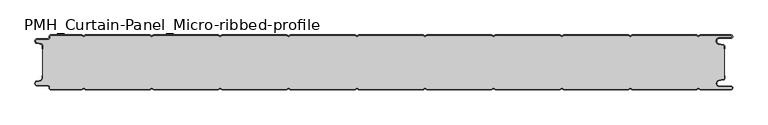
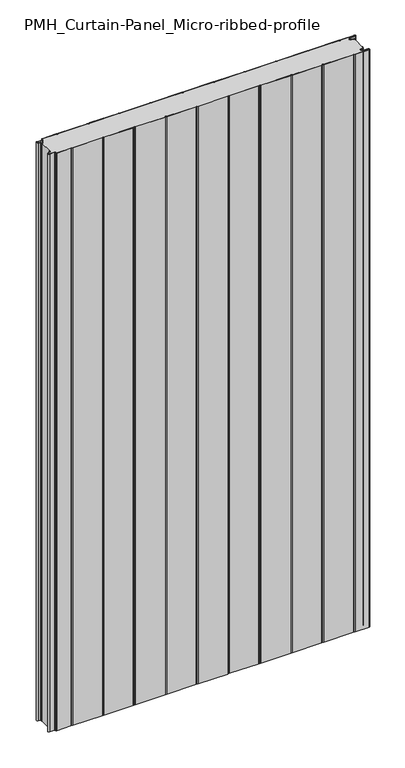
"""IFC4 building model written with IfcOpenShell, lengths in millimetres: plate geometry, PMH_Curtain-Panel_Micro-ribbed-profile : ACH_PMH_Stone-wool-Panel_80M."""

import ifcopenshell
import ifcopenshell.guid

model = None  # the IFC model being written
_history = None  # IfcOwnerHistory: only IFC2X3 demands one
_inside = {}  # id of a spatial element -> (the spatial element, [elements in it])
_under = {}  # id of a project, library or spatial element -> (it, [spatial elements below it])
_declared = {}  # id of a project -> (the project, [libraries it declares])
_typed = {}  # id of a type object -> (the type object, [elements of that type])
_made_of = {}  # id of a material, layer set ... -> (it, [elements and type objects made of it])


def new_model(schema):
    """Start an empty IFC model of exactly this schema.

    Asked for "IFC4X3", IfcOpenShell would pick the latest addendum, in which some entities
    have other attributes; the version numbers below select the first issue.
    IFC2X3 requires an IfcOwnerHistory on every rooted entity: one is made here for all.
    """
    global model, _history
    if schema == "IFC4X3":
        model = ifcopenshell.file(schema_version=(4, 3, 0, 0))
    else:
        model = ifcopenshell.file(schema=schema)
    _inside.clear()
    _under.clear()
    _declared.clear()
    _typed.clear()
    _made_of.clear()
    _history = None
    if model.schema == "IFC2X3":
        org = make("IfcOrganization", Name="unknown")
        user = make(
            "IfcPersonAndOrganization",
            ThePerson=make("IfcPerson", FamilyName="unknown"),
            TheOrganization=org,
        )
        app = make(
            "IfcApplication",
            ApplicationDeveloper=org,
            Version="unknown",
            ApplicationFullName="unknown",
            ApplicationIdentifier="unknown",
        )
        _history = make(
            "IfcOwnerHistory",
            OwningUser=user,
            OwningApplication=app,
            ChangeAction="ADDED",
            CreationDate=0,
        )
    return model


def make(cls, **values):
    """One entity of the class cls with the attributes given. An attribute that is None is left unset."""
    return model.create_entity(
        cls, **{name: value for name, value in values.items() if value is not None}
    )


def rooted(cls, **values):
    """An entity with a GlobalId (a new one), such as an element, a storey or a relation."""
    return make(cls, GlobalId=ifcopenshell.guid.new(), OwnerHistory=_history, **values)


def si_unit(unit_type, name, prefix=None):
    """IfcSIUnit, for example si_unit("LENGTHUNIT", "METRE", prefix="MILLI")."""
    return make("IfcSIUnit", UnitType=unit_type, Prefix=prefix, Name=name)


def assignment(units):
    """IfcUnitAssignment: the units of a project."""
    return None if units is None else make("IfcUnitAssignment", Units=units)


def point(xyz):
    """IfcCartesianPoint."""
    return None if xyz is None else make("IfcCartesianPoint", Coordinates=xyz)


def direction(xyz):
    """IfcDirection."""
    return None if xyz is None else make("IfcDirection", DirectionRatios=xyz)


def frame(location, z_axis=None, x_axis=None):
    """IfcAxis2Placement3D, a coordinate frame: its origin and axes. An axis left out is left unset."""
    return make(
        "IfcAxis2Placement3D",
        Location=point(location),
        Axis=direction(z_axis),
        RefDirection=direction(x_axis),
    )


def frame_2d(location, x_axis=None):
    """IfcAxis2Placement2D, a coordinate frame in the plane: its origin and x axis."""
    return make(
        "IfcAxis2Placement2D", Location=point(location), RefDirection=direction(x_axis)
    )


def origin():
    """The frame at (0, 0, 0) with its axes left unset."""
    return frame((0.0, 0.0, 0.0))


def origin_with_axes():
    """The frame at (0, 0, 0) with the z axis (0, 0, 1) and the x axis (1, 0, 0) written out."""
    return frame((0.0, 0.0, 0.0), z_axis=(0.0, 0.0, 1.0), x_axis=(1.0, 0.0, 0.0))


def place(relative_to, where):
    """IfcLocalPlacement: puts the frame where relative to a parent placement (None: the world)."""
    return make(
        "IfcLocalPlacement", PlacementRelTo=relative_to, RelativePlacement=where
    )


def context(
    kind, dimensions, precision=None, world=None, true_north=None, identifier=None
):
    """IfcGeometricRepresentationContext, for example the 3D "Model" context."""
    return make(
        "IfcGeometricRepresentationContext",
        ContextIdentifier=identifier,
        ContextType=kind,
        CoordinateSpaceDimension=dimensions,
        Precision=precision,
        WorldCoordinateSystem=world,
        TrueNorth=true_north,
    )


def project(units=None, contexts=None):
    """IfcProject with its units and contexts."""
    return rooted(
        "IfcProject",
        Name="project",
        RepresentationContexts=contexts,
        UnitsInContext=assignment(units),
    )


def spatial(cls, under=None, at=None, **own):
    """A site, building, storey or space (cls), placed at a placement, below another one or the project."""
    s = rooted(cls, ObjectPlacement=at, **own)
    if under is not None:
        _under.setdefault(under.id(), (under, []))[1].append(s)
    return s


def polyline(points):
    """IfcPolyline through the points."""
    return make("IfcPolyline", Points=[point(p) for p in points])


def circle_curve(where, radius):
    """IfcCircle in the frame where."""
    return make("IfcCircle", Position=where, Radius=radius)


def trimmed(basis, trim1, trim2, sense, master):
    """IfcTrimmedCurve: the piece of a basis curve between two trims."""
    return make(
        "IfcTrimmedCurve",
        BasisCurve=basis,
        Trim1=trim1,
        Trim2=trim2,
        SenseAgreement=sense,
        MasterRepresentation=master,
    )


def segment(curve, same_sense, transition):
    """IfcCompositeCurveSegment."""
    return make(
        "IfcCompositeCurveSegment",
        Transition=transition,
        SameSense=same_sense,
        ParentCurve=curve,
    )


def composite_curve(segments, self_intersect=None):
    """IfcCompositeCurve: segments joined end to end."""
    return make("IfcCompositeCurve", Segments=segments, SelfIntersect=self_intersect)


def outline(outer, holes=None, kind="AREA"):
    """IfcArbitraryClosedProfileDef: a profile drawn as a closed curve; with holes, ...WithVoids."""
    if holes is None:
        return make("IfcArbitraryClosedProfileDef", ProfileType=kind, OuterCurve=outer)
    return make(
        "IfcArbitraryProfileDefWithVoids",
        ProfileType=kind,
        OuterCurve=outer,
        InnerCurves=holes,
    )


def extrude(swept, where, along, depth):
    """IfcExtrudedAreaSolid: the profile swept, set in the frame where, extruded along a direction by depth."""
    return make(
        "IfcExtrudedAreaSolid",
        SweptArea=swept,
        Position=where,
        ExtrudedDirection=direction(along),
        Depth=depth,
    )


def shape(context_of_items, identifier, shape_type, items):
    """IfcShapeRepresentation: the items that make up one representation, for example the "Body"."""
    return make(
        "IfcShapeRepresentation",
        ContextOfItems=context_of_items,
        RepresentationIdentifier=identifier,
        RepresentationType=shape_type,
        Items=items,
    )


def source(mapping_origin, context_of_items, identifier, shape_type, items):
    """IfcRepresentationMap: a shape defined once, which mapped items show again and again."""
    return make(
        "IfcRepresentationMap",
        MappingOrigin=mapping_origin,
        MappedRepresentation=shape(context_of_items, identifier, shape_type, items),
    )


def transform(
    local_origin,
    x_axis=None,
    y_axis=None,
    z_axis=None,
    scale=None,
    scale2=None,
    scale3=None,
    uniform=True,
):
    """IfcCartesianTransformationOperator3D, or its non-uniform kind. x_axis, y_axis, z_axis: its Axis1, 2, 3."""
    if uniform:
        return make(
            "IfcCartesianTransformationOperator3D",
            Axis1=direction(x_axis),
            Axis2=direction(y_axis),
            LocalOrigin=point(local_origin),
            Scale=scale,
            Axis3=direction(z_axis),
        )
    return make(
        "IfcCartesianTransformationOperator3DnonUniform",
        Axis1=direction(x_axis),
        Axis2=direction(y_axis),
        LocalOrigin=point(local_origin),
        Scale=scale,
        Axis3=direction(z_axis),
        Scale2=scale2,
        Scale3=scale3,
    )


def mapped(mapping_source, mapping_target):
    """IfcMappedItem: shows the shape of a source again, moved by a transform."""
    return make(
        "IfcMappedItem", MappingSource=mapping_source, MappingTarget=mapping_target
    )


def made_of(thing, what):
    """Note that an element or type object is made of a material, layer set ...; save() writes the relation."""
    if what is not None:
        _made_of.setdefault(what.id(), (what, []))[1].append(thing)
    return thing


def element(
    cls,
    number,
    at=None,
    inside=None,
    cuts=None,
    type_object=None,
    material=None,
    context=None,
    identifier="Body",
    shape_type=None,
    held_by="IfcProductDefinitionShape",
    body=None,
    shapes=None,
    **own,
):
    """One element of the class cls, such as IfcWall. Its Tag is "e" and its number.

    at: its placement. inside: the storey or other place that contains it. cuts: it is an
    opening in that element (IfcRelVoidsElement). A single representation is given by context,
    identifier, shape_type and body (its items); several are given by shapes. held_by: the class
    of the entity that holds the representations. save() writes the other relations.
    """
    e = rooted(cls, Tag="e%d" % number, ObjectPlacement=at, **own)
    if body is not None:
        shapes = [shape(context, identifier, shape_type, body)]
    if shapes is not None:
        e.Representation = make(held_by, Representations=shapes)
    if inside is not None:
        _inside.setdefault(inside.id(), (inside, []))[1].append(e)
    if cuts is not None:
        rooted(
            "IfcRelVoidsElement", RelatingBuildingElement=cuts, RelatedOpeningElement=e
        )
    if type_object is not None:
        _typed.setdefault(type_object.id(), (type_object, []))[1].append(e)
    return made_of(e, material)


def aggregate(whole, parts):
    """IfcRelAggregates: a whole, such as a stair, and the parts it consists of."""
    return rooted("IfcRelAggregates", RelatingObject=whole, RelatedObjects=parts)


def save(model, path):
    """Write the relations noted so far, then the file.

    IfcRelAggregates (storeys below a building ...), IfcRelContainedInSpatialStructure (elements
    in a storey), IfcRelDefinesByType, IfcRelAssociatesMaterial and IfcRelDeclares: one each for
    every whole, place, type object, material and project.
    """
    for whole, parts in _under.values():
        aggregate(whole, parts)
    for where, things in _inside.values():
        rooted(
            "IfcRelContainedInSpatialStructure",
            RelatedElements=things,
            RelatingStructure=where,
        )
    for kind, things in _typed.values():
        rooted("IfcRelDefinesByType", RelatedObjects=things, RelatingType=kind)
    for what, things in _made_of.values():
        rooted("IfcRelAssociatesMaterial", RelatedObjects=things, RelatingMaterial=what)
    for by, libraries in _declared.values():
        rooted("IfcRelDeclares", RelatingContext=by, RelatedDefinitions=libraries)
    model.write(path)


def pmh_curtain_panel_micro_ribbed_profile_33a01f13(model_context):
    return source(origin(), model_context, "Body", "SweptSolid", [
        extrude(outline(composite_curve([segment(trimmed(circle_curve(frame_2d((-502.0, -15.878557)), 2.0), [point((-500.0, -15.878557))], [point((-501.5500978, -13.9298169))], True, "CARTESIAN"), True, "CONTINUOUS"), segment(polyline([(-501.5500978, -13.9298169), (-507.7098239, -12.507732)]), True, "CONTINUOUS"), segment(trimmed(circle_curve(frame_2d((-506.9, -9.0)), 3.6), [point((-507.7098239, -12.507732))], [point((-506.9, -5.4))], False, "CARTESIAN"), True, "CONTINUOUS"), segment(polyline([(-506.9, -5.4), (-491.4, -5.4)]), True, "CONTINUOUS"), segment(trimmed(circle_curve(frame_2d((-491.4, -3.4)), 2.0), [point((-491.4, -5.4))], [point((-489.4, -3.4))], True, "CARTESIAN"), True, "CONTINUOUS"), segment(polyline([(-489.4, -3.4), (-489.4, -2.0)]), True, "CONTINUOUS"), segment(trimmed(circle_curve(frame_2d((-487.4, -2.0)), 2.0), [point((-489.4, -2.0))], [point((-487.4, 0.0))], False, "CARTESIAN"), True, "CONTINUOUS"), segment(polyline([(-487.4, 0.0), (-442.0999995, 0.0), (-439.4, -1.5588455), (-436.7000005, 0.0), (-342.0999995, 0.0), (-339.4, -1.5588455), (-336.7000005, 0.0), (-242.0999995, 0.0), (-239.4, -1.5588455), (-236.7000005, 0.0), (-142.0999995, 0.0), (-139.4, -1.5588455), (-136.7000005, 0.0), (-42.0999995, 0.0), (-39.4, -1.5588455), (-36.7000005, 0.0), (57.9000005, 0.0), (60.6, -1.5588455), (63.2999995, 0.0), (157.9000005, 0.0), (160.6, -1.5588455), (163.2999995, 0.0), (257.9000005, 0.0), (260.6, -1.5588455), (263.2999995, 0.0), (357.9000005, 0.0), (360.6, -1.5588455), (363.2999995, 0.0), (457.9000005, 0.0), (460.6, -1.5588455), (463.2999995, 0.0), (508.1, 0.0)]), True, "CONTINUOUS"), segment(trimmed(circle_curve(frame_2d((508.1, -2.5)), 2.5), [point((508.1, 0.0))], [point((508.1, -5.0))], False, "CARTESIAN"), True, "CONTINUOUS"), segment(polyline([(508.1, -5.0), (491.1, -5.0)]), True, "CONTINUOUS"), segment(trimmed(circle_curve(frame_2d((491.1, -9.0)), 4.0), [point((491.1, -5.0))], [point((490.405407, -12.939231))], True, "CARTESIAN"), True, "CONTINUOUS"), segment(polyline([(490.405407, -12.939231), (496.8514855, -14.0758491)]), True, "CONTINUOUS"), segment(trimmed(circle_curve(frame_2d((496.4, -16.6363492)), 2.6), [point((496.8514855, -14.0758491))], [point((499.0, -16.6363492))], False, "CARTESIAN"), True, "CONTINUOUS"), segment(polyline([(499.0, -16.6363492), (499.0, -20.0), (498.2, -20.0), (498.2, -16.6363492)]), True, "CONTINUOUS"), segment(trimmed(circle_curve(frame_2d((496.4, -16.6363492)), 1.8), [point((498.2, -16.6363492))], [point((496.7125669, -14.8636953))], True, "CARTESIAN"), True, "CONTINUOUS"), segment(polyline([(496.7125669, -14.8636953), (490.2664884, -13.7270772)]), True, "CONTINUOUS"), segment(trimmed(circle_curve(frame_2d((491.1, -9.0)), 4.8), [point((490.2664884, -13.7270772))], [point((491.1, -4.2))], False, "CARTESIAN"), True, "CONTINUOUS"), segment(polyline([(491.1, -4.2), (508.1, -4.2)]), True, "CONTINUOUS"), segment(trimmed(circle_curve(frame_2d((508.1, -2.5)), 1.7), [point((508.1, -4.2))], [point((508.1, -0.8))], True, "CARTESIAN"), True, "CONTINUOUS"), segment(polyline([(508.1, -0.8), (463.5143588, -0.8), (460.6, -2.482606), (457.6856412, -0.8), (363.5143588, -0.8), (360.6, -2.482606), (357.6856412, -0.8), (263.5143588, -0.8), (260.6, -2.482606), (257.6856412, -0.8), (163.5143588, -0.8), (160.6, -2.482606), (157.6856412, -0.8), (63.5143588, -0.8), (60.6, -2.482606), (57.6856412, -0.8), (-36.4856412, -0.8), (-39.4, -2.482606), (-42.3143588, -0.8), (-136.4856412, -0.8), (-139.4, -2.482606), (-142.3143588, -0.8), (-236.4856412, -0.8), (-239.4, -2.482606), (-242.3143588, -0.8), (-336.4856412, -0.8), (-339.4, -2.482606), (-342.3143588, -0.8), (-436.4856412, -0.8), (-439.4, -2.482606), (-442.3143588, -0.8), (-487.4, -0.8)]), True, "CONTINUOUS"), segment(trimmed(circle_curve(frame_2d((-487.4, -2.0)), 1.2), [point((-487.4, -0.8))], [point((-488.6, -2.0))], True, "CARTESIAN"), True, "CONTINUOUS"), segment(polyline([(-488.6, -2.0), (-488.6, -3.4)]), True, "CONTINUOUS"), segment(trimmed(circle_curve(frame_2d((-491.4, -3.4)), 2.8), [point((-488.6, -3.4))], [point((-491.4, -6.2))], False, "CARTESIAN"), True, "CONTINUOUS"), segment(polyline([(-491.4, -6.2), (-506.9, -6.2)]), True, "CONTINUOUS"), segment(trimmed(circle_curve(frame_2d((-506.9, -9.0)), 2.8), [point((-506.9, -6.2))], [point((-507.529863, -11.7282362))], True, "CARTESIAN"), True, "CONTINUOUS"), segment(polyline([(-507.529863, -11.7282362), (-501.370137, -13.150321)]), True, "CONTINUOUS"), segment(trimmed(circle_curve(frame_2d((-502.0, -15.878557)), 2.8), [point((-501.370137, -13.150321))], [point((-499.2, -15.878557))], False, "CARTESIAN"), True, "CONTINUOUS"), segment(polyline([(-499.2, -15.878557), (-499.2, -20.0), (-500.0, -20.0), (-500.0, -15.878557)]), True, "CONTINUOUS")], self_intersect=False)), origin_with_axes(), (0.0, 0.0, 1.0), 1945.7507136),
        extrude(outline(composite_curve([segment(polyline([(-499.2, -64.1214426), (-499.2, -15.8785573)]), True, "CONTINUOUS"), segment(trimmed(circle_curve(frame_2d((-502.0, -15.8785573)), 2.8), [point((-499.2, -15.8785573))], [point((-501.370137, -13.1503212))], True, "CARTESIAN"), True, "CONTINUOUS"), segment(polyline([(-501.370137, -13.1503212), (-507.5298631, -11.7282362)]), True, "CONTINUOUS"), segment(trimmed(circle_curve(frame_2d((-506.9, -9.0)), 2.8), [point((-507.5298631, -11.7282362))], [point((-506.9, -6.2))], False, "CARTESIAN"), True, "CONTINUOUS"), segment(polyline([(-506.9, -6.2), (-491.4000001, -6.2)]), True, "CONTINUOUS"), segment(trimmed(circle_curve(frame_2d((-491.4000001, -3.4)), 2.8), [point((-491.4000001, -6.2))], [point((-488.6000001, -3.4))], True, "CARTESIAN"), True, "CONTINUOUS"), segment(polyline([(-488.6000001, -3.4), (-488.6000001, -2.0)]), True, "CONTINUOUS"), segment(trimmed(circle_curve(frame_2d((-487.4000001, -2.0)), 1.2), [point((-488.6000001, -2.0))], [point((-487.4000001, -0.8))], False, "CARTESIAN"), True, "CONTINUOUS"), segment(polyline([(-487.4000001, -0.8), (-442.3143589, -0.8), (-439.4000001, -2.482606), (-436.4856412, -0.8), (-342.3143589, -0.8), (-339.4000001, -2.482606), (-336.4856412, -0.8), (-242.3143589, -0.8), (-239.4000001, -2.482606), (-236.4856412, -0.8), (-142.3143589, -0.8), (-139.4000001, -2.482606), (-136.4856412, -0.8), (-42.3143589, -0.8), (-39.4000001, -2.482606), (-36.4856412, -0.8), (57.6856411, -0.8), (60.5999999, -2.482606), (63.5143588, -0.8), (157.6856411, -0.8), (160.5999999, -2.482606), (163.5143588, -0.8), (257.6856411, -0.8), (260.5999999, -2.482606), (263.5143588, -0.8), (357.6856411, -0.8), (360.5999999, -2.482606), (363.5143588, -0.8), (457.6856411, -0.8), (460.5999999, -2.482606), (463.5143588, -0.8), (508.0999999, -0.8)]), True, "CONTINUOUS"), segment(trimmed(circle_curve(frame_2d((508.0999999, -2.5)), 1.7), [point((508.0999999, -0.8))], [point((508.0999999, -4.2))], False, "CARTESIAN"), True, "CONTINUOUS"), segment(polyline([(508.0999999, -4.2), (491.0999999, -4.2)]), True, "CONTINUOUS"), segment(trimmed(circle_curve(frame_2d((491.0999999, -9.0)), 4.8), [point((491.0999999, -4.2))], [point((490.2664883, -13.7270771))], True, "CARTESIAN"), True, "CONTINUOUS"), segment(polyline([(490.2664883, -13.7270771), (496.7125668, -14.8636953)]), True, "CONTINUOUS"), segment(trimmed(circle_curve(frame_2d((496.3999999, -16.6363492)), 1.8), [point((496.7125668, -14.8636953))], [point((498.1999999, -16.6363492))], False, "CARTESIAN"), True, "CONTINUOUS"), segment(polyline([(498.1999999, -16.6363492), (498.1999999, -63.3636508)]), True, "CONTINUOUS"), segment(trimmed(circle_curve(frame_2d((496.3999999, -63.3636508)), 1.8), [point((498.1999999, -63.3636508))], [point((496.7125668, -65.1363047))], False, "CARTESIAN"), True, "CONTINUOUS"), segment(polyline([(496.7125668, -65.1363047), (490.2664883, -66.2729229)]), True, "CONTINUOUS"), segment(trimmed(circle_curve(frame_2d((491.0999999, -71.0)), 4.8), [point((490.2664883, -66.2729229))], [point((491.0999999, -75.8))], True, "CARTESIAN"), True, "CONTINUOUS"), segment(polyline([(491.0999999, -75.8), (508.0999999, -75.8)]), True, "CONTINUOUS"), segment(trimmed(circle_curve(frame_2d((508.0999999, -77.5)), 1.7), [point((508.0999999, -75.8))], [point((508.0999999, -79.2))], False, "CARTESIAN"), True, "CONTINUOUS"), segment(polyline([(508.0999999, -79.2), (463.5143588, -79.2), (460.5999999, -77.517394), (457.6856411, -79.2), (363.5143588, -79.2), (360.5999999, -77.517394), (357.6856411, -79.2), (263.5143588, -79.2), (260.5999999, -77.517394), (257.6856411, -79.2), (163.5143588, -79.2), (160.5999999, -77.517394), (157.6856411, -79.2), (63.5143588, -79.2), (60.5999999, -77.517394), (57.6856411, -79.2), (-36.4856412, -79.2), (-39.4000001, -77.517394), (-42.3143589, -79.2), (-136.4856412, -79.2), (-139.4000001, -77.517394), (-142.3143589, -79.2), (-236.4856412, -79.2), (-239.4000001, -77.517394), (-242.3143589, -79.2), (-336.4856412, -79.2), (-339.4000001, -77.517394), (-342.3143589, -79.2), (-436.4856412, -79.2), (-439.4000001, -77.517394), (-442.3143589, -79.2), (-487.4000001, -79.2)]), True, "CONTINUOUS"), segment(trimmed(circle_curve(frame_2d((-487.4000001, -78.0)), 1.2), [point((-487.4000001, -79.2))], [point((-488.6000001, -78.0))], False, "CARTESIAN"), True, "CONTINUOUS"), segment(polyline([(-488.6000001, -78.0), (-488.6000001, -76.6)]), True, "CONTINUOUS"), segment(trimmed(circle_curve(frame_2d((-491.4000001, -76.6)), 2.8), [point((-488.6000001, -76.6))], [point((-491.4000001, -73.8))], True, "CARTESIAN"), True, "CONTINUOUS"), segment(polyline([(-491.4000001, -73.8), (-506.9, -73.8)]), True, "CONTINUOUS"), segment(trimmed(circle_curve(frame_2d((-506.9, -71.0)), 2.8), [point((-506.9, -73.8))], [point((-507.5298631, -68.2717638))], False, "CARTESIAN"), True, "CONTINUOUS"), segment(polyline([(-507.5298631, -68.2717638), (-501.370137, -66.8496788)]), True, "CONTINUOUS"), segment(trimmed(circle_curve(frame_2d((-502.0, -64.1214426)), 2.8), [point((-501.370137, -66.8496788))], [point((-499.2, -64.1214426))], True, "CARTESIAN"), True, "CONTINUOUS")], self_intersect=False)), origin_with_axes(), (0.0, 0.0, 1.0), 1945.7507136),
        extrude(outline(composite_curve([segment(polyline([(-500.0, -64.121443), (-500.0, -60.0), (-499.2, -60.0), (-499.2, -64.121443)]), True, "CONTINUOUS"), segment(trimmed(circle_curve(frame_2d((-502.0, -64.121443)), 2.8), [point((-499.2, -64.121443))], [point((-501.370137, -66.8496792))], False, "CARTESIAN"), True, "CONTINUOUS"), segment(polyline([(-501.370137, -66.8496792), (-507.529863, -68.271764)]), True, "CONTINUOUS"), segment(trimmed(circle_curve(frame_2d((-506.9, -71.0)), 2.8), [point((-507.529863, -68.271764))], [point((-506.9, -73.8))], True, "CARTESIAN"), True, "CONTINUOUS"), segment(polyline([(-506.9, -73.8), (-491.4, -73.8)]), True, "CONTINUOUS"), segment(trimmed(circle_curve(frame_2d((-491.4, -76.6)), 2.8), [point((-491.4, -73.8))], [point((-488.6, -76.6))], False, "CARTESIAN"), True, "CONTINUOUS"), segment(polyline([(-488.6, -76.6), (-488.6, -78.0)]), True, "CONTINUOUS"), segment(trimmed(circle_curve(frame_2d((-487.4, -78.0)), 1.2), [point((-488.6, -78.0))], [point((-487.4, -79.2))], True, "CARTESIAN"), True, "CONTINUOUS"), segment(polyline([(-487.4, -79.2), (-442.3143588, -79.2), (-439.4, -77.517394), (-436.4856412, -79.2), (-342.3143588, -79.2), (-339.4, -77.517394), (-336.4856412, -79.2), (-242.3143588, -79.2), (-239.4, -77.517394), (-236.4856412, -79.2), (-142.3143588, -79.2), (-139.4, -77.517394), (-136.4856412, -79.2), (-42.3143588, -79.2), (-39.4, -77.517394), (-36.4856412, -79.2), (57.6856412, -79.2), (60.6, -77.517394), (63.5143588, -79.2), (157.6856412, -79.2), (160.6, -77.517394), (163.5143588, -79.2), (257.6856412, -79.2), (260.6, -77.517394), (263.5143588, -79.2), (357.6856412, -79.2), (360.6, -77.517394), (363.5143588, -79.2), (457.6856412, -79.2), (460.6, -77.517394), (463.5143588, -79.2), (508.1, -79.2)]), True, "CONTINUOUS"), segment(trimmed(circle_curve(frame_2d((508.1, -77.5)), 1.7), [point((508.1, -79.2))], [point((508.1, -75.8))], True, "CARTESIAN"), True, "CONTINUOUS"), segment(polyline([(508.1, -75.8), (491.1, -75.8)]), True, "CONTINUOUS"), segment(trimmed(circle_curve(frame_2d((491.1, -71.0)), 4.8), [point((491.1, -75.8))], [point((490.2664884, -66.2729229))], False, "CARTESIAN"), True, "CONTINUOUS"), segment(polyline([(490.2664884, -66.2729229), (496.7125669, -65.1363047)]), True, "CONTINUOUS"), segment(trimmed(circle_curve(frame_2d((496.4, -63.3636508)), 1.8), [point((496.7125669, -65.1363047))], [point((498.2, -63.3636508))], True, "CARTESIAN"), True, "CONTINUOUS"), segment(polyline([(498.2, -63.3636508), (498.2, -60.0), (499.0, -60.0), (499.0, -63.3636508)]), True, "CONTINUOUS"), segment(trimmed(circle_curve(frame_2d((496.4, -63.3636508)), 2.6), [point((499.0, -63.3636508))], [point((496.8514855, -65.9241509))], False, "CARTESIAN"), True, "CONTINUOUS"), segment(polyline([(496.8514855, -65.9241509), (490.405407, -67.060769)]), True, "CONTINUOUS"), segment(trimmed(circle_curve(frame_2d((491.1, -71.0)), 4.0), [point((490.405407, -67.060769))], [point((491.1, -75.0))], True, "CARTESIAN"), True, "CONTINUOUS"), segment(polyline([(491.1, -75.0), (508.1, -75.0)]), True, "CONTINUOUS"), segment(trimmed(circle_curve(frame_2d((508.1, -77.5)), 2.5), [point((508.1, -75.0))], [point((508.1, -80.0))], False, "CARTESIAN"), True, "CONTINUOUS"), segment(polyline([(508.1, -80.0), (463.2999995, -80.0), (460.6, -78.4411545), (457.9000005, -80.0), (363.2999995, -80.0), (360.6, -78.4411545), (357.9000005, -80.0), (263.2999995, -80.0), (260.6, -78.4411545), (257.9000005, -80.0), (163.2999995, -80.0), (160.6, -78.4411545), (157.9000005, -80.0), (63.2999995, -80.0), (60.6, -78.4411545), (57.9000005, -80.0), (-36.7000005, -80.0), (-39.4, -78.4411545), (-42.0999995, -80.0), (-136.7000005, -80.0), (-139.4, -78.4411545), (-142.0999995, -80.0), (-236.7000005, -80.0), (-239.4, -78.4411545), (-242.0999995, -80.0), (-336.7000005, -80.0), (-339.4, -78.4411545), (-342.0999995, -80.0), (-436.7000005, -80.0), (-439.4, -78.4411545), (-442.0999995, -80.0), (-487.4, -80.0)]), True, "CONTINUOUS"), segment(trimmed(circle_curve(frame_2d((-487.4, -78.0)), 2.0), [point((-487.4, -80.0))], [point((-489.4, -78.0))], False, "CARTESIAN"), True, "CONTINUOUS"), segment(polyline([(-489.4, -78.0), (-489.4, -76.6)]), True, "CONTINUOUS"), segment(trimmed(circle_curve(frame_2d((-491.4, -76.6)), 2.0), [point((-489.4, -76.6))], [point((-491.4, -74.6))], True, "CARTESIAN"), True, "CONTINUOUS"), segment(polyline([(-491.4, -74.6), (-506.9, -74.6)]), True, "CONTINUOUS"), segment(trimmed(circle_curve(frame_2d((-506.9, -71.0)), 3.6), [point((-506.9, -74.6))], [point((-507.7098239, -67.4922678))], False, "CARTESIAN"), True, "CONTINUOUS"), segment(polyline([(-507.7098239, -67.4922678), (-501.5500979, -66.070183)]), True, "CONTINUOUS"), segment(trimmed(circle_curve(frame_2d((-502.0, -64.121443)), 2.0), [point((-501.5500979, -66.070183))], [point((-500.0, -64.121443))], True, "CARTESIAN"), True, "CONTINUOUS")], self_intersect=False)), origin_with_axes(), (0.0, 0.0, 1.0), 1945.7507136),
    ])


if __name__ == "__main__":
    model = new_model("IFC4")
    model_context = context("Model", 3, world=origin())
    ifc_project = project(units=[si_unit("LENGTHUNIT", "METRE", prefix="MILLI")], contexts=[model_context])
    site = spatial("IfcSite", under=ifc_project)
    building = spatial("IfcBuilding", under=site)
    placement = place(None, origin())
    pmh_curtain_panel_micro_ribbed_profile_shape = pmh_curtain_panel_micro_ribbed_profile_33a01f13(model_context)
    element("IfcPlate", 1, ObjectType="PMH_Curtain-Panel_Micro-ribbed-profile : ACH_PMH_Stone-wool-Panel_80M", at=placement, inside=building, context=model_context, shape_type="MappedRepresentation", body=[
        mapped(pmh_curtain_panel_micro_ribbed_profile_shape, transform((0.0, 0.0, 0.0), x_axis=(1.0, 0.0, 0.0), y_axis=(0.0, 1.0, 0.0), z_axis=(0.0, 0.0, 1.0))),
    ])
    save(model, "model.ifc")
